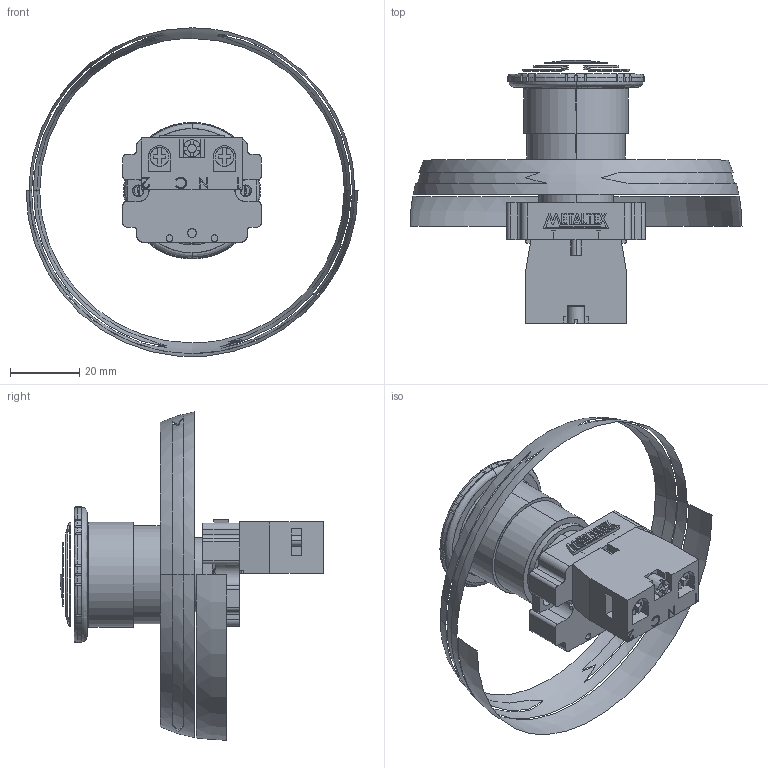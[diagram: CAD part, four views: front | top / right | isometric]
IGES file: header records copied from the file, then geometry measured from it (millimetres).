
Start section: SolidWorks IGES file using analytic representation for surfaces
Global section: file name: D:\X - Arquivos\PROEX\Empresas\P11 - METALTEX\01 - Produtos\IGES\Segunda remessa\M20AKR-R-1B.IGS; native system: SolidWorks 2012; preprocessor: SolidWorks 2012; author: Usuario; date: 180117.120438; units: millimetre
Bounding box: 96.03 x 76.2 x 94.98 mm (x, y, z)
Surface area: 16678.8 mm2 (no closed solid volume)
Topology: 0 solids, 0 shells, 453 faces, 5221 edges, 5189 vertices
Faces by surface type: bspline 311, revolution 142
